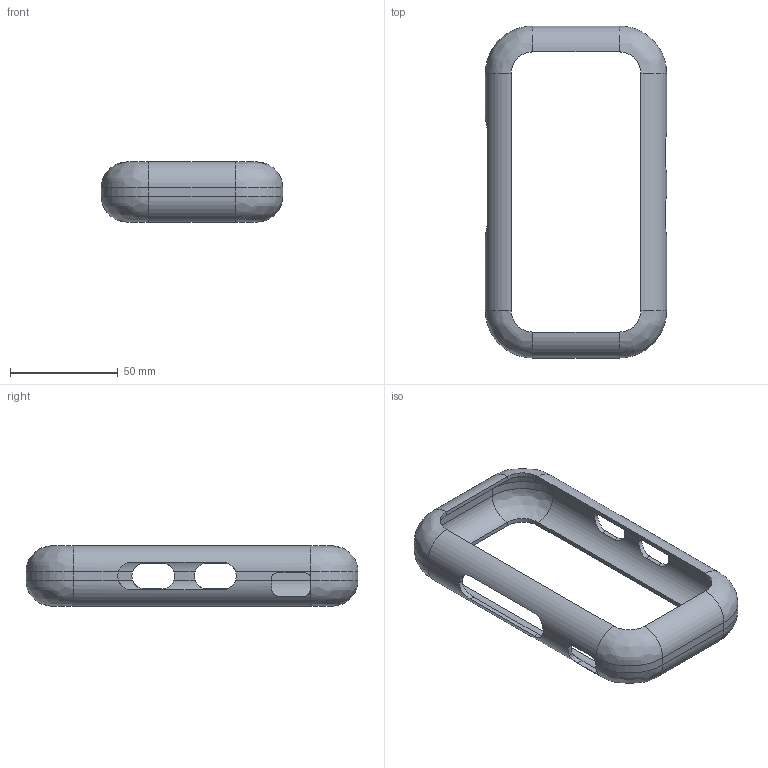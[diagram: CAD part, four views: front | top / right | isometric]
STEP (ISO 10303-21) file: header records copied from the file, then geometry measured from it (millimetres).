
FILE_DESCRIPTION(/* description */ (''),/* implementation_level */ '2;1');
FILE_NAME(/* name */ '13_Rim.step',/* time_stamp */ '2026-09-19T10:15:32-07:00',/* author */ (''),/* organization */ (''),/* preprocessor_version */ 'ST-DEVELOPER v20.2',/* originating_system */ 'Autodesk Translation Framework v15.15.0.0',/* authorisation */ '');
FILE_SCHEMA (('AUTOMOTIVE_DESIGN { 1 0 10303 214 3 1 1 }'));
Length unit declared in the file: millimetre
Products named in the file (1): 2026-09-19-10-15-31-947
Bounding box: 84.2 x 154.2 x 28 mm (x, y, z)
Volume: 29010.5 mm3; surface area: 31092.9 mm2
Topology: 1 solids, 1 shells, 106 faces, 278 edges, 164 vertices
Faces by surface type: cylinder 48, plane 39, bspline 19
Entity records: 3617 total; most frequent: CARTESIAN_POINT 1034, ORIENTED_EDGE 556, DIRECTION 526, EDGE_CURVE 278, AXIS2_PLACEMENT_3D 190, VERTEX_POINT 164, LINE 146, VECTOR 146
